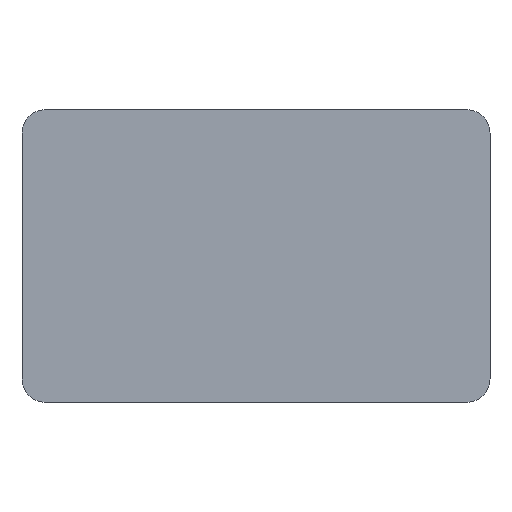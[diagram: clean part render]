
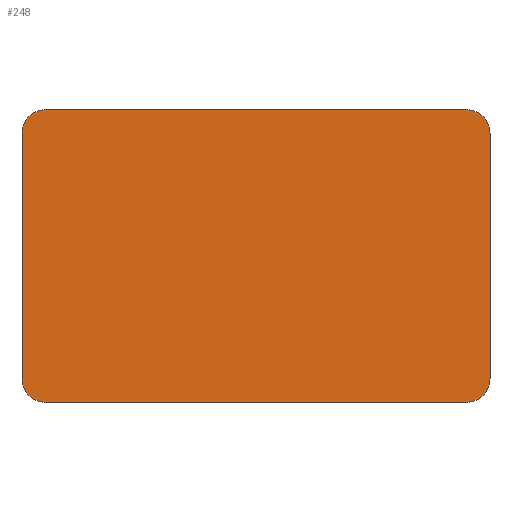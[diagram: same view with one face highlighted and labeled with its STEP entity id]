
A CAD part, front view. The second image highlights one B-rep face of the part: STEP entity #248.
In plain terms, the highlighted planar face has unit normal (0, -1, 0).
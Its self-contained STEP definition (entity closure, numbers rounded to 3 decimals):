
#248=ADVANCED_FACE('',(#1359),#1360,.F.);
#1359=FACE_OUTER_BOUND('',#3482,.T.);
#1360=PLANE('',#3483);
#3482=EDGE_LOOP('',(#5850,#5851,#5852,#5853,#5854,#5855,#5856,#5857,#5858,#5859,#5860,#5861));
#3483=AXIS2_PLACEMENT_3D('',#5862,#5863,#5864);
#5850=ORIENTED_EDGE('',*,*,#14931,.F.);
#5851=ORIENTED_EDGE('',*,*,#14950,.F.);
#5852=ORIENTED_EDGE('',*,*,#14947,.F.);
#5853=ORIENTED_EDGE('',*,*,#14919,.F.);
#5854=ORIENTED_EDGE('',*,*,#14945,.F.);
#5855=ORIENTED_EDGE('',*,*,#14942,.F.);
#5856=ORIENTED_EDGE('',*,*,#14923,.F.);
#5857=ORIENTED_EDGE('',*,*,#14940,.F.);
#5858=ORIENTED_EDGE('',*,*,#14937,.F.);
#5859=ORIENTED_EDGE('',*,*,#14927,.F.);
#5860=ORIENTED_EDGE('',*,*,#14935,.F.);
#5861=ORIENTED_EDGE('',*,*,#14932,.F.);
#5862=CARTESIAN_POINT('',(0.,-1.6,0.));
#5863=DIRECTION('',(0.,1.0,0.));
#5864=DIRECTION('',(0.0,0.,1.0));
#14919=EDGE_CURVE('',#18053,#18049,#18055,.T.);
#14923=EDGE_CURVE('',#18061,#18057,#18063,.T.);
#14927=EDGE_CURVE('',#18069,#18065,#18071,.T.);
#14931=EDGE_CURVE('',#18077,#18073,#18079,.T.);
#14932=EDGE_CURVE('',#18073,#18080,#18081,.T.);
#14935=EDGE_CURVE('',#18080,#18069,#18085,.T.);
#14937=EDGE_CURVE('',#18065,#18087,#18088,.T.);
#14940=EDGE_CURVE('',#18087,#18061,#18092,.T.);
#14942=EDGE_CURVE('',#18057,#18094,#18095,.T.);
#14945=EDGE_CURVE('',#18094,#18053,#18099,.T.);
#14947=EDGE_CURVE('',#18049,#18101,#18102,.T.);
#14950=EDGE_CURVE('',#18101,#18077,#18106,.T.);
#18049=VERTEX_POINT('',#23209);
#18053=VERTEX_POINT('',#23214);
#18055=CIRCLE('',#23217,0.04);
#18057=VERTEX_POINT('',#23219);
#18061=VERTEX_POINT('',#23224);
#18063=CIRCLE('',#23227,0.04);
#18065=VERTEX_POINT('',#23229);
#18069=VERTEX_POINT('',#23234);
#18071=CIRCLE('',#23237,0.04);
#18073=VERTEX_POINT('',#23239);
#18077=VERTEX_POINT('',#23244);
#18079=CIRCLE('',#23247,0.04);
#18080=VERTEX_POINT('',#23248);
#18081=CIRCLE('',#23249,0.04);
#18085=LINE('',#23254,#23255);
#18087=VERTEX_POINT('',#23258);
#18088=CIRCLE('',#23259,0.04);
#18092=LINE('',#23264,#23265);
#18094=VERTEX_POINT('',#23268);
#18095=CIRCLE('',#23269,0.04);
#18099=LINE('',#23274,#23275);
#18101=VERTEX_POINT('',#23278);
#18102=CIRCLE('',#23279,0.04);
#18106=LINE('',#23284,#23285);
#23209=CARTESIAN_POINT('',(-0.388,-1.6,0.238));
#23214=CARTESIAN_POINT('',(-0.4,-1.6,0.21));
#23217=AXIS2_PLACEMENT_3D('',#31333,#31334,#31335);
#23219=CARTESIAN_POINT('',(-0.388,-1.6,-0.238));
#23224=CARTESIAN_POINT('',(-0.36,-1.6,-0.25));
#23227=AXIS2_PLACEMENT_3D('',#31341,#31342,#31343);
#23229=CARTESIAN_POINT('',(0.388,-1.6,-0.238));
#23234=CARTESIAN_POINT('',(0.4,-1.6,-0.21));
#23237=AXIS2_PLACEMENT_3D('',#31349,#31350,#31351);
#23239=CARTESIAN_POINT('',(0.388,-1.6,0.238));
#23244=CARTESIAN_POINT('',(0.36,-1.6,0.25));
#23247=AXIS2_PLACEMENT_3D('',#31357,#31358,#31359);
#23248=CARTESIAN_POINT('',(0.4,-1.6,0.21));
#23249=AXIS2_PLACEMENT_3D('',#31360,#31361,#31362);
#23254=CARTESIAN_POINT('',(0.4,-1.6,0.21));
#23255=VECTOR('',#31367,1.0);
#23258=CARTESIAN_POINT('',(0.36,-1.6,-0.25));
#23259=AXIS2_PLACEMENT_3D('',#31369,#31370,#31371);
#23264=CARTESIAN_POINT('',(0.36,-1.6,-0.25));
#23265=VECTOR('',#31376,1.0);
#23268=CARTESIAN_POINT('',(-0.4,-1.6,-0.21));
#23269=AXIS2_PLACEMENT_3D('',#31378,#31379,#31380);
#23274=CARTESIAN_POINT('',(-0.4,-1.6,-0.21));
#23275=VECTOR('',#31385,1.0);
#23278=CARTESIAN_POINT('',(-0.36,-1.6,0.25));
#23279=AXIS2_PLACEMENT_3D('',#31387,#31388,#31389);
#23284=CARTESIAN_POINT('',(-0.36,-1.6,0.25));
#23285=VECTOR('',#31394,1.0);
#31333=CARTESIAN_POINT('',(-0.36,-1.6,0.21));
#31334=DIRECTION('',(0.0,1.0,0.0));
#31335=DIRECTION('',(-0.707,0.0,0.707));
#31341=CARTESIAN_POINT('',(-0.36,-1.6,-0.21));
#31342=DIRECTION('',(0.0,1.0,0.0));
#31343=DIRECTION('',(-0.707,0.0,-0.707));
#31349=CARTESIAN_POINT('',(0.36,-1.6,-0.21));
#31350=DIRECTION('',(0.0,1.0,0.0));
#31351=DIRECTION('',(0.707,0.0,-0.707));
#31357=CARTESIAN_POINT('',(0.36,-1.6,0.21));
#31358=DIRECTION('',(-0.0,1.0,0.0));
#31359=DIRECTION('',(0.707,0.0,0.707));
#31360=CARTESIAN_POINT('',(0.36,-1.6,0.21));
#31361=DIRECTION('',(-0.0,1.0,0.0));
#31362=DIRECTION('',(0.707,0.0,0.707));
#31367=DIRECTION('',(0.0,0.0,-1.0));
#31369=CARTESIAN_POINT('',(0.36,-1.6,-0.21));
#31370=DIRECTION('',(0.0,1.0,0.0));
#31371=DIRECTION('',(0.707,0.0,-0.707));
#31376=DIRECTION('',(-1.0,0.0,0.0));
#31378=CARTESIAN_POINT('',(-0.36,-1.6,-0.21));
#31379=DIRECTION('',(0.0,1.0,0.0));
#31380=DIRECTION('',(-0.707,0.0,-0.707));
#31385=DIRECTION('',(0.0,0.0,1.0));
#31387=CARTESIAN_POINT('',(-0.36,-1.6,0.21));
#31388=DIRECTION('',(0.0,1.0,0.0));
#31389=DIRECTION('',(-0.707,0.0,0.707));
#31394=DIRECTION('',(1.0,0.0,0.0));
